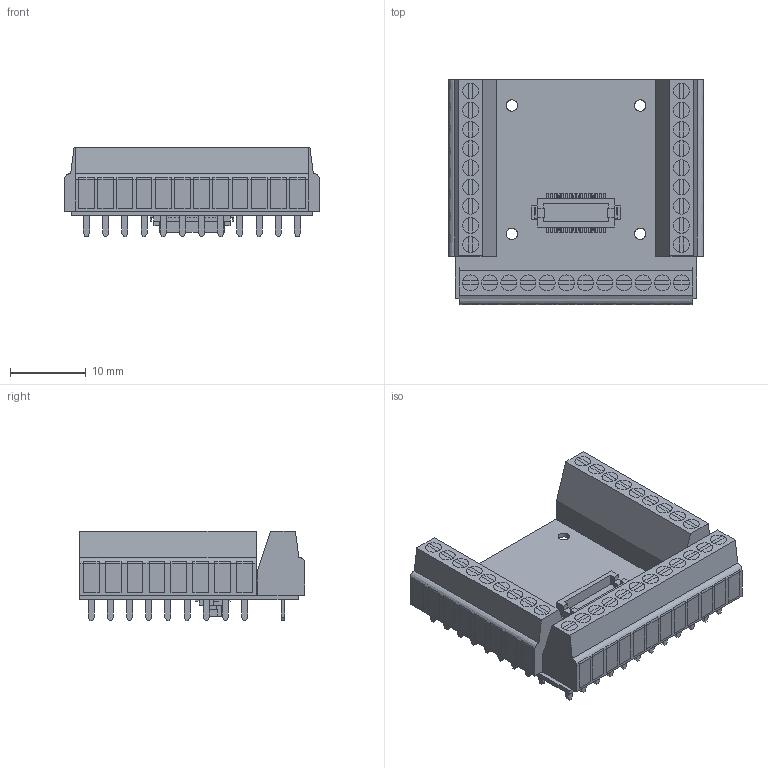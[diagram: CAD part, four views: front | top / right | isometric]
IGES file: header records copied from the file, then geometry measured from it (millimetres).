
Global section: file name: Filename.iges; native system: Open CASCADE 7.4; preprocessor: Open CASCADE IGES processor 7.4; date: 20200721.233545; units: millimetre
Bounding box: 33.74 x 29.9 x 11.9 mm (x, y, z)
Surface area: 10370.7 mm2 (no closed solid volume)
Topology: 0 solids, 0 shells, 3004 faces, 13836 edges, 13186 vertices
Faces by surface type: plane 2618, revolution 386
